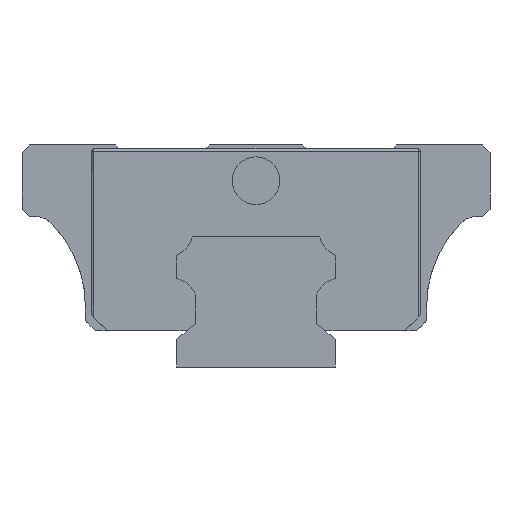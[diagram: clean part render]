
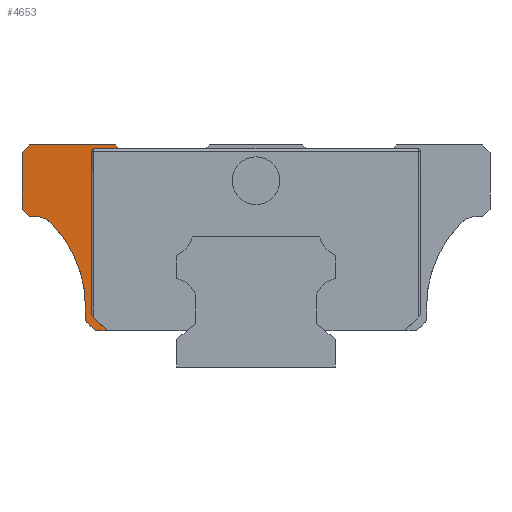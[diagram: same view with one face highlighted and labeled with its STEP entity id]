
A CAD part, left-side view. The second image highlights one B-rep face of the part: STEP entity #4653.
In plain terms, the highlighted planar face has unit normal (-1, 0, 0).
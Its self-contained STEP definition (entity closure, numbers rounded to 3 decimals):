
#23 = VERTEX_POINT ( 'NONE', #1817 ) ;
#47 = DIRECTION ( 'NONE',  ( 0., 0., 1. ) ) ;
#55 = LINE ( 'NONE', #4495, #6528 ) ;
#80 = CARTESIAN_POINT ( 'NONE',  ( -13.9, 20.457, 27.205 ) ) ;
#181 = CARTESIAN_POINT ( 'NONE',  ( -13.9, 0., 17.29 ) ) ;
#197 = CARTESIAN_POINT ( 'NONE',  ( -13.9, -20.542, 27.5 ) ) ;
#300 = LINE ( 'NONE', #6581, #2678 ) ;
#353 = ORIENTED_EDGE ( 'NONE', *, *, #5781, .T. ) ;
#383 = VERTEX_POINT ( 'NONE', #6574 ) ;
#396 = LINE ( 'NONE', #4250, #2218 ) ;
#423 = ORIENTED_EDGE ( 'NONE', *, *, #4527, .F. ) ;
#558 = VERTEX_POINT ( 'NONE', #1879 ) ;
#621 = ORIENTED_EDGE ( 'NONE', *, *, #3337, .T. ) ;
#809 = ORIENTED_EDGE ( 'NONE', *, *, #5038, .T. ) ;
#898 = VECTOR ( 'NONE', #5854, 1000. ) ;
#983 = DIRECTION ( 'NONE',  ( 0., 0., 1. ) ) ;
#1004 = EDGE_CURVE ( 'NONE', #383, #7174, #5258, .T. ) ;
#1012 = LINE ( 'NONE', #3256, #5843 ) ;
#1225 = ORIENTED_EDGE ( 'NONE', *, *, #1460, .F. ) ;
#1243 = EDGE_CURVE ( 'NONE', #3253, #5321, #1012, .T. ) ;
#1311 = CARTESIAN_POINT ( 'NONE',  ( -13.9, 28.6, 19. ) ) ;
#1393 = DIRECTION ( 'NONE',  ( -1., 0., 0. ) ) ;
#1423 = EDGE_CURVE ( 'NONE', #23, #1969, #4130, .T. ) ;
#1429 = DIRECTION ( 'NONE',  ( 0., -0.707, -0.707 ) ) ;
#1440 = VERTEX_POINT ( 'NONE', #4670 ) ;
#1460 = EDGE_CURVE ( 'NONE', #383, #2527, #4095, .T. ) ;
#1486 = CARTESIAN_POINT ( 'NONE',  ( -13.9, 28.55, 28. ) ) ;
#1616 = VERTEX_POINT ( 'NONE', #3964 ) ;
#1624 = AXIS2_PLACEMENT_3D ( 'NONE', #181, #1393, #6497 ) ;
#1633 = DIRECTION ( 'NONE',  ( 1., 0., 0. ) ) ;
#1642 = CIRCLE ( 'NONE', #1975, 0.295 ) ;
#1817 = CARTESIAN_POINT ( 'NONE',  ( -13.9, 28.6, 19. ) ) ;
#1879 = CARTESIAN_POINT ( 'NONE',  ( -13.9, 20.752, 27.205 ) ) ;
#1939 = CARTESIAN_POINT ( 'NONE',  ( -13.9, 17.228, 27.438 ) ) ;
#1940 = LINE ( 'NONE', #3622, #6664 ) ;
#1969 = VERTEX_POINT ( 'NONE', #3771 ) ;
#1975 = AXIS2_PLACEMENT_3D ( 'NONE', #80, #2268, #47 ) ;
#2165 = VERTEX_POINT ( 'NONE', #4531 ) ;
#2218 = VECTOR ( 'NONE', #1429, 1000. ) ;
#2267 = CARTESIAN_POINT ( 'NONE',  ( -13.9, 20.457, 27.5 ) ) ;
#2268 = DIRECTION ( 'NONE',  ( 1., 0., 0. ) ) ;
#2394 = ORIENTED_EDGE ( 'NONE', *, *, #1423, .T. ) ;
#2490 = EDGE_CURVE ( 'NONE', #1969, #5021, #4722, .T. ) ;
#2502 = FACE_OUTER_BOUND ( 'NONE', #4405, .T. ) ;
#2527 = VERTEX_POINT ( 'NONE', #2267 ) ;
#2621 = CARTESIAN_POINT ( 'NONE',  ( -13.9, 21.5, 7.6 ) ) ;
#2674 = DIRECTION ( 'NONE',  ( 1., 0., 0. ) ) ;
#2678 = VECTOR ( 'NONE', #4341, 1000. ) ;
#2688 = ORIENTED_EDGE ( 'NONE', *, *, #1004, .T. ) ;
#2692 = VECTOR ( 'NONE', #2718, 1000. ) ;
#2715 = DIRECTION ( 'NONE',  ( 0., 0.707, -0.707 ) ) ;
#2718 = DIRECTION ( 'NONE',  ( 0., -0.707, -0.707 ) ) ;
#2787 = CARTESIAN_POINT ( 'NONE',  ( -13.9, 21.5, 5.85 ) ) ;
#2813 = DIRECTION ( 'NONE',  ( 0., 0., 1. ) ) ;
#2871 = AXIS2_PLACEMENT_3D ( 'NONE', #6064, #1633, #2813 ) ;
#2977 = DIRECTION ( 'NONE',  ( 0., 1., 0. ) ) ;
#3151 = CARTESIAN_POINT ( 'NONE',  ( -13.9, 28.55, 28. ) ) ;
#3206 = EDGE_CURVE ( 'NONE', #5677, #2165, #7102, .T. ) ;
#3232 = EDGE_CURVE ( 'NONE', #5021, #7077, #5814, .T. ) ;
#3253 = VERTEX_POINT ( 'NONE', #3801 ) ;
#3256 = CARTESIAN_POINT ( 'NONE',  ( -13.9, 20.752, 6.6 ) ) ;
#3337 = EDGE_CURVE ( 'NONE', #1440, #5321, #55, .T. ) ;
#3366 = CARTESIAN_POINT ( 'NONE',  ( -13.9, 18.752, 4.6 ) ) ;
#3622 = CARTESIAN_POINT ( 'NONE',  ( -13.9, 29.5, 28. ) ) ;
#3771 = CARTESIAN_POINT ( 'NONE',  ( -13.9, 27.93, 19. ) ) ;
#3801 = CARTESIAN_POINT ( 'NONE',  ( -13.9, 20.752, 6.6 ) ) ;
#3963 = LINE ( 'NONE', #4584, #5600 ) ;
#3964 = CARTESIAN_POINT ( 'NONE',  ( -13.9, 21.5, 5.85 ) ) ;
#3969 = VECTOR ( 'NONE', #6831, 1000. ) ;
#4095 = LINE ( 'NONE', #197, #7137 ) ;
#4130 = LINE ( 'NONE', #1311, #7257 ) ;
#4219 = PLANE ( 'NONE',  #1624 ) ;
#4250 = CARTESIAN_POINT ( 'NONE',  ( -13.9, 29.5, 19.9 ) ) ;
#4341 = DIRECTION ( 'NONE',  ( 0., 0., -1. ) ) ;
#4405 = EDGE_LOOP ( 'NONE', ( #7059, #2394, #5747, #6563, #6440, #6982, #621, #5902, #423, #353, #1225, #2688, #6013, #4895, #809 ) ) ;
#4495 = CARTESIAN_POINT ( 'NONE',  ( -13.9, 18.542, 4.6 ) ) ;
#4527 = EDGE_CURVE ( 'NONE', #558, #3253, #6751, .T. ) ;
#4530 = AXIS2_PLACEMENT_3D ( 'NONE', #6004, #2674, #983 ) ;
#4531 = CARTESIAN_POINT ( 'NONE',  ( -13.9, 29.5, 27.05 ) ) ;
#4584 = CARTESIAN_POINT ( 'NONE',  ( -13.9, 17.7, 28. ) ) ;
#4653 = ADVANCED_FACE ( 'NONE', ( #2502 ), #4219, .T. ) ;
#4670 = CARTESIAN_POINT ( 'NONE',  ( -13.9, 20.25, 4.6 ) ) ;
#4679 = DIRECTION ( 'NONE',  ( 0., 0., -1. ) ) ;
#4722 = CIRCLE ( 'NONE', #2871, 3. ) ;
#4895 = ORIENTED_EDGE ( 'NONE', *, *, #3206, .T. ) ;
#5021 = VERTEX_POINT ( 'NONE', #6161 ) ;
#5038 = EDGE_CURVE ( 'NONE', #2165, #6646, #1940, .T. ) ;
#5258 = LINE ( 'NONE', #1939, #898 ) ;
#5321 = VERTEX_POINT ( 'NONE', #3366 ) ;
#5600 = VECTOR ( 'NONE', #2977, 1000. ) ;
#5677 = VERTEX_POINT ( 'NONE', #1486 ) ;
#5747 = ORIENTED_EDGE ( 'NONE', *, *, #2490, .T. ) ;
#5775 = DIRECTION ( 'NONE',  ( 0., 1., 0. ) ) ;
#5781 = EDGE_CURVE ( 'NONE', #558, #2527, #1642, .T. ) ;
#5814 = CIRCLE ( 'NONE', #4530, 15. ) ;
#5843 = VECTOR ( 'NONE', #7177, 1000. ) ;
#5854 = DIRECTION ( 'NONE',  ( 0., 0.643, 0.766 ) ) ;
#5902 = ORIENTED_EDGE ( 'NONE', *, *, #1243, .F. ) ;
#5993 = CARTESIAN_POINT ( 'NONE',  ( -13.9, 29.5, 19.9 ) ) ;
#6004 = CARTESIAN_POINT ( 'NONE',  ( -13.9, 36.5, 7.6 ) ) ;
#6013 = ORIENTED_EDGE ( 'NONE', *, *, #6225, .T. ) ;
#6064 = CARTESIAN_POINT ( 'NONE',  ( -13.9, 27.93, 16. ) ) ;
#6101 = CARTESIAN_POINT ( 'NONE',  ( -13.9, 17.7, 28. ) ) ;
#6117 = DIRECTION ( 'NONE',  ( 0., -1., 0. ) ) ;
#6121 = LINE ( 'NONE', #2787, #2692 ) ;
#6161 = CARTESIAN_POINT ( 'NONE',  ( -13.9, 25.788, 18.1 ) ) ;
#6169 = CARTESIAN_POINT ( 'NONE',  ( -13.9, 20.752, 26.875 ) ) ;
#6225 = EDGE_CURVE ( 'NONE', #7174, #5677, #3963, .T. ) ;
#6299 = EDGE_CURVE ( 'NONE', #6646, #23, #396, .T. ) ;
#6369 = DIRECTION ( 'NONE',  ( 0., -1., 0. ) ) ;
#6405 = EDGE_CURVE ( 'NONE', #1616, #1440, #6121, .T. ) ;
#6440 = ORIENTED_EDGE ( 'NONE', *, *, #6629, .T. ) ;
#6497 = DIRECTION ( 'NONE',  ( 0., 0., 1. ) ) ;
#6528 = VECTOR ( 'NONE', #6117, 1000. ) ;
#6563 = ORIENTED_EDGE ( 'NONE', *, *, #3232, .T. ) ;
#6574 = CARTESIAN_POINT ( 'NONE',  ( -13.9, 17.28, 27.5 ) ) ;
#6581 = CARTESIAN_POINT ( 'NONE',  ( -13.9, 21.5, 7.6 ) ) ;
#6629 = EDGE_CURVE ( 'NONE', #7077, #1616, #300, .T. ) ;
#6646 = VERTEX_POINT ( 'NONE', #5993 ) ;
#6664 = VECTOR ( 'NONE', #4679, 1000. ) ;
#6751 = LINE ( 'NONE', #6169, #3969 ) ;
#6831 = DIRECTION ( 'NONE',  ( 0., 0., -1. ) ) ;
#6982 = ORIENTED_EDGE ( 'NONE', *, *, #6405, .T. ) ;
#7059 = ORIENTED_EDGE ( 'NONE', *, *, #6299, .T. ) ;
#7077 = VERTEX_POINT ( 'NONE', #2621 ) ;
#7102 = LINE ( 'NONE', #3151, #7226 ) ;
#7137 = VECTOR ( 'NONE', #5775, 1000. ) ;
#7174 = VERTEX_POINT ( 'NONE', #6101 ) ;
#7177 = DIRECTION ( 'NONE',  ( 0., -0.707, -0.707 ) ) ;
#7226 = VECTOR ( 'NONE', #2715, 1000. ) ;
#7257 = VECTOR ( 'NONE', #6369, 1000. ) ;
